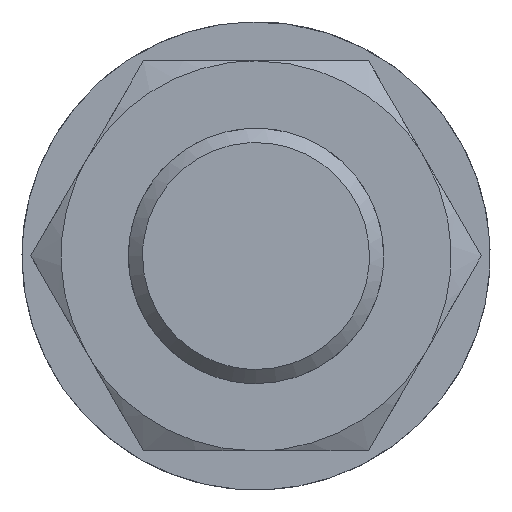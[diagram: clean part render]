
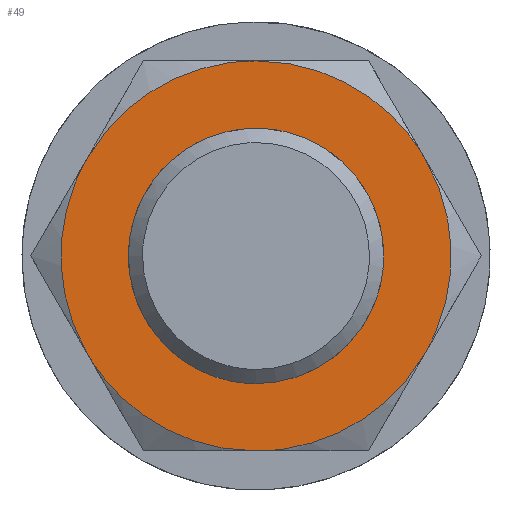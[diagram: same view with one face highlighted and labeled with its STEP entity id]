
A CAD part, left-side view. The second image highlights one B-rep face of the part: STEP entity #49.
In plain terms, the highlighted planar face has unit normal (-1, 0, 0).
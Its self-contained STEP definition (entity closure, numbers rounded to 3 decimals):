
#40=FACE_BOUND('',#138,.T.);
#49=ADVANCED_FACE('',(#92,#40),#663,.T.);
#92=FACE_OUTER_BOUND('',#137,.T.);
#137=EDGE_LOOP('',(#202,#203,#204,#205,#206,#207));
#138=EDGE_LOOP('',(#208,#209));
#202=ORIENTED_EDGE('',*,*,#405,.F.);
#203=ORIENTED_EDGE('',*,*,#407,.F.);
#204=ORIENTED_EDGE('',*,*,#408,.F.);
#205=ORIENTED_EDGE('',*,*,#406,.F.);
#206=ORIENTED_EDGE('',*,*,#404,.F.);
#207=ORIENTED_EDGE('',*,*,#403,.F.);
#208=ORIENTED_EDGE('',*,*,#393,.F.);
#209=ORIENTED_EDGE('',*,*,#391,.F.);
#391=EDGE_CURVE('',#608,#598,#518,.T.);
#393=EDGE_CURVE('',#598,#608,#519,.T.);
#403=EDGE_CURVE('',#602,#603,#527,.T.);
#404=EDGE_CURVE('',#603,#607,#528,.T.);
#405=EDGE_CURVE('',#604,#602,#529,.T.);
#406=EDGE_CURVE('',#607,#606,#530,.T.);
#407=EDGE_CURVE('',#605,#604,#531,.T.);
#408=EDGE_CURVE('',#606,#605,#532,.T.);
#518=(
BOUNDED_CURVE()
B_SPLINE_CURVE(2,(#1166,#1167,#1168,#1169,#1170),.UNSPECIFIED.,.F.,.F.)
B_SPLINE_CURVE_WITH_KNOTS((3,2,3),(56.549,84.823,113.097),
 .UNSPECIFIED.)
CURVE()
GEOMETRIC_REPRESENTATION_ITEM()
RATIONAL_B_SPLINE_CURVE((1.,0.707,1.,0.707,1.))
REPRESENTATION_ITEM('')
);
#519=(
BOUNDED_CURVE()
B_SPLINE_CURVE(2,(#1173,#1174,#1175,#1176,#1177),.UNSPECIFIED.,.F.,.F.)
B_SPLINE_CURVE_WITH_KNOTS((3,2,3),(0.,28.274,56.549),
 .UNSPECIFIED.)
CURVE()
GEOMETRIC_REPRESENTATION_ITEM()
RATIONAL_B_SPLINE_CURVE((1.,0.707,1.,0.707,1.))
REPRESENTATION_ITEM('')
);
#527=(
BOUNDED_CURVE()
B_SPLINE_CURVE(2,(#1215,#1216,#1217),.UNSPECIFIED.,.F.,.F.)
B_SPLINE_CURVE_WITH_KNOTS((3,3),(0.,28.798),.UNSPECIFIED.)
CURVE()
GEOMETRIC_REPRESENTATION_ITEM()
RATIONAL_B_SPLINE_CURVE((1.,0.866,1.))
REPRESENTATION_ITEM('')
);
#528=(
BOUNDED_CURVE()
B_SPLINE_CURVE(2,(#1218,#1219,#1220),.UNSPECIFIED.,.F.,.F.)
B_SPLINE_CURVE_WITH_KNOTS((3,3),(0.,28.798),.UNSPECIFIED.)
CURVE()
GEOMETRIC_REPRESENTATION_ITEM()
RATIONAL_B_SPLINE_CURVE((1.,0.866,1.))
REPRESENTATION_ITEM('')
);
#529=(
BOUNDED_CURVE()
B_SPLINE_CURVE(2,(#1221,#1222,#1223),.UNSPECIFIED.,.F.,.F.)
B_SPLINE_CURVE_WITH_KNOTS((3,3),(0.,28.798),.UNSPECIFIED.)
CURVE()
GEOMETRIC_REPRESENTATION_ITEM()
RATIONAL_B_SPLINE_CURVE((1.,0.866,1.))
REPRESENTATION_ITEM('')
);
#530=(
BOUNDED_CURVE()
B_SPLINE_CURVE(2,(#1224,#1225,#1226),.UNSPECIFIED.,.F.,.F.)
B_SPLINE_CURVE_WITH_KNOTS((3,3),(0.,28.798),.UNSPECIFIED.)
CURVE()
GEOMETRIC_REPRESENTATION_ITEM()
RATIONAL_B_SPLINE_CURVE((1.,0.866,1.))
REPRESENTATION_ITEM('')
);
#531=(
BOUNDED_CURVE()
B_SPLINE_CURVE(2,(#1227,#1228,#1229),.UNSPECIFIED.,.F.,.F.)
B_SPLINE_CURVE_WITH_KNOTS((3,3),(0.,28.798),.UNSPECIFIED.)
CURVE()
GEOMETRIC_REPRESENTATION_ITEM()
RATIONAL_B_SPLINE_CURVE((1.,0.866,1.))
REPRESENTATION_ITEM('')
);
#532=(
BOUNDED_CURVE()
B_SPLINE_CURVE(2,(#1230,#1231,#1232),.UNSPECIFIED.,.F.,.F.)
B_SPLINE_CURVE_WITH_KNOTS((3,3),(0.,28.798),.UNSPECIFIED.)
CURVE()
GEOMETRIC_REPRESENTATION_ITEM()
RATIONAL_B_SPLINE_CURVE((1.,0.866,1.))
REPRESENTATION_ITEM('')
);
#598=VERTEX_POINT('',#1134);
#602=VERTEX_POINT('',#1138);
#603=VERTEX_POINT('',#1139);
#604=VERTEX_POINT('',#1140);
#605=VERTEX_POINT('',#1141);
#606=VERTEX_POINT('',#1142);
#607=VERTEX_POINT('',#1143);
#608=VERTEX_POINT('',#1144);
#663=PLANE('',#777);
#777=AXIS2_PLACEMENT_3D('',#891,#803,$);
#803=DIRECTION('',(-1.,0.,0.));
#891=CARTESIAN_POINT('',(49.,-38.225,33.12));
#1134=CARTESIAN_POINT('',(49.,0.,-18.));
#1138=CARTESIAN_POINT('',(49.,-23.816,13.75));
#1139=CARTESIAN_POINT('',(49.,-23.816,-13.75));
#1140=CARTESIAN_POINT('',(49.,0.,27.5));
#1141=CARTESIAN_POINT('',(49.,23.816,13.75));
#1142=CARTESIAN_POINT('',(49.,23.816,-13.75));
#1143=CARTESIAN_POINT('',(49.,0.,-27.5));
#1144=CARTESIAN_POINT('',(49.,0.,18.));
#1166=CARTESIAN_POINT('',(49.,0.,18.));
#1167=CARTESIAN_POINT('',(49.,18.,18.));
#1168=CARTESIAN_POINT('',(49.,18.,0.));
#1169=CARTESIAN_POINT('',(49.,18.,-18.));
#1170=CARTESIAN_POINT('',(49.,0.,-18.));
#1173=CARTESIAN_POINT('',(49.,0.,-18.));
#1174=CARTESIAN_POINT('',(49.,-18.,-18.));
#1175=CARTESIAN_POINT('',(49.,-18.,0.));
#1176=CARTESIAN_POINT('',(49.,-18.,18.));
#1177=CARTESIAN_POINT('',(49.,0.,18.));
#1215=CARTESIAN_POINT('',(49.,-23.816,13.75));
#1216=CARTESIAN_POINT('',(49.,-31.754,0.));
#1217=CARTESIAN_POINT('',(49.,-23.816,-13.75));
#1218=CARTESIAN_POINT('',(49.,-23.816,-13.75));
#1219=CARTESIAN_POINT('',(49.,-15.877,-27.5));
#1220=CARTESIAN_POINT('',(49.,0.,-27.5));
#1221=CARTESIAN_POINT('',(49.,0.,27.5));
#1222=CARTESIAN_POINT('',(49.,-15.877,27.5));
#1223=CARTESIAN_POINT('',(49.,-23.816,13.75));
#1224=CARTESIAN_POINT('',(49.,0.,-27.5));
#1225=CARTESIAN_POINT('',(49.,15.877,-27.5));
#1226=CARTESIAN_POINT('',(49.,23.816,-13.75));
#1227=CARTESIAN_POINT('',(49.,23.816,13.75));
#1228=CARTESIAN_POINT('',(49.,15.877,27.5));
#1229=CARTESIAN_POINT('',(49.,0.,27.5));
#1230=CARTESIAN_POINT('',(49.,23.816,-13.75));
#1231=CARTESIAN_POINT('',(49.,31.754,0.));
#1232=CARTESIAN_POINT('',(49.,23.816,13.75));
